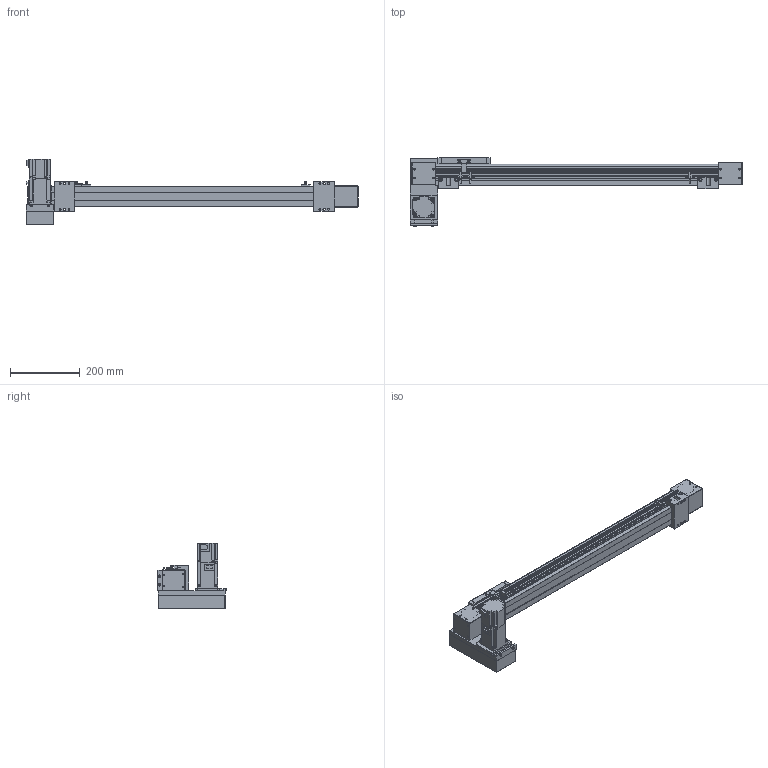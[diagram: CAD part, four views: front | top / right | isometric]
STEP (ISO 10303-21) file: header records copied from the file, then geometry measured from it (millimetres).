
FILE_DESCRIPTION(/* description */ ('STEP AP214'),/* implementation_level */ '2;1');
FILE_NAME(/* name */ 'SK60-P13-S650-LD-T40-C1-N(0)',/* time_stamp */ '2023-04-06T04:38:18+02:00',/* author */ ('License CC BY-ND 4.0'),/* organization */ ('CADENAS'),/* preprocessor_version */ 'ST-DEVELOPER v19.3',/* originating_system */ 'PARTsolutions',/* authorisation */ ' ');
FILE_SCHEMA (('AUTOMOTIVE_DESIGN {1 0 10303 214 3 1 1}'));
Length unit declared in the file: millimetre
Products named in the file (10): SK60-P13-S650-LD-T40-C1-N(0); PSC140-sensor; SK60-S450_seat; SK60-S450-BL-C1_slider; SK60_body3; SK60_body6; SK60-BL_body2; T40-p1; SK60-LD_fb; SK60-S650-LD-C1_body
Assembly tree (16 placements, depth 2):
  SK60-P13-S650-LD-T40-C1-N(0)
    PSC140-sensor  x3
    SK60-S450_seat  x2
    SK60-S450-BL-C1_slider
    SK60_body3  x3
    SK60_body6  x2
    SK60-BL_body2  x2
    T40-p1
    SK60-LD_fb
    SK60-S650-LD-C1_body
Bounding box: 955.5 x 199 x 189.7 mm (x, y, z)
Volume: 4455827.4 mm3; surface area: 580748.6 mm2
Topology: 16 solids, 16 shells, 810 faces, 2048 edges, 1349 vertices
Faces by surface type: plane 524, cylinder 262, cone 22, torus 2
Full cylindrical faces by diameter (mm): 2.8 x3, 3.3 x4, 4 x2, 4.5 x30, 4.6 x3, 4.917 x16, 5 x6, 5.478 x4, 5.5 x19, 6.5 x4, 7 x2, 8 x4, 8.5 x4, 9.988 x4, 10 x8, 14 x1, 47 x3, 50 x2
Entity records: 18655 total; most frequent: DIRECTION 3184, CARTESIAN_POINT 3150, ORIENTED_EDGE 2940, EDGE_CURVE 1470, AXIS2_PLACEMENT_3D 1068, LINE 1048, VECTOR 1048, VERTEX_POINT 1034
